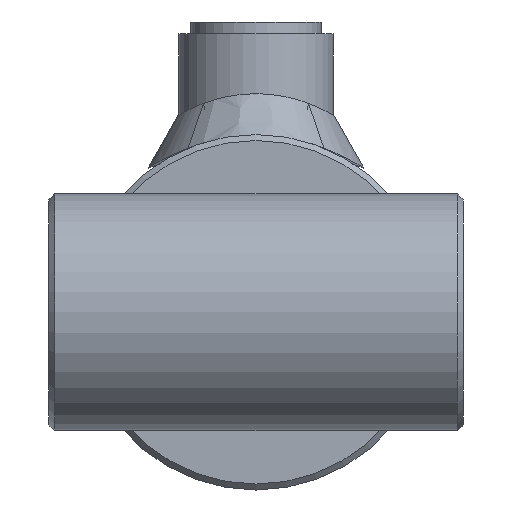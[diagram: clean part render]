
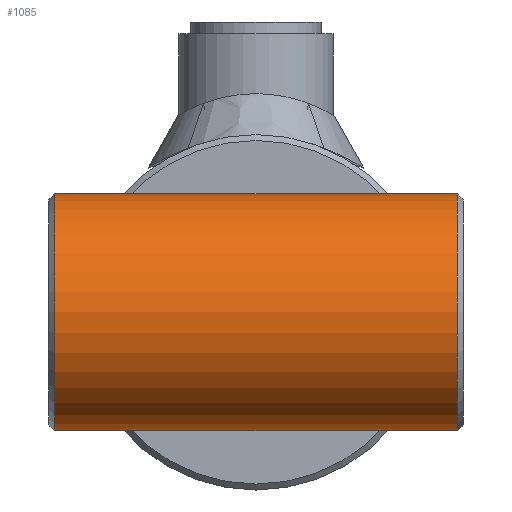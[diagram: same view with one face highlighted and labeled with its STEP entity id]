
A CAD part, left-side view. The second image highlights one B-rep face of the part: STEP entity #1085.
In plain terms, the highlighted cylindrical face has radius 20 mm (diameter 40 mm), a full revolution.
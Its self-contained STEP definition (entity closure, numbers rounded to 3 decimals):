
#1085 = ADVANCED_FACE( '', ( #2072, #2073 ), #2074, .T. );
#2072 = FACE_OUTER_BOUND( '', #7133, .T. );
#2073 = FACE_OUTER_BOUND( '', #7134, .T. );
#2074 = CYLINDRICAL_SURFACE( '', #7135, 20. );
#7133 = EDGE_LOOP( '', ( #11878 ) );
#7134 = EDGE_LOOP( '', ( #11879 ) );
#7135 = AXIS2_PLACEMENT_3D( '', #11880, #11881, #11882 );
#11878 = ORIENTED_EDGE( '', *, *, #13212, .T. );
#11879 = ORIENTED_EDGE( '', *, *, #12874, .T. );
#11880 = CARTESIAN_POINT( '', ( 0., -35., 0. ) );
#11881 = DIRECTION( '', ( 0., -1., 0. ) );
#11882 = DIRECTION( '', ( 0., 0., 1. ) );
#12874 = EDGE_CURVE( '', #13870, #13870, #13871, .T. );
#13212 = EDGE_CURVE( '', #14352, #14352, #14353, .F. );
#13870 = VERTEX_POINT( '', #15685 );
#13871 = CIRCLE( '', #15686, 20. );
#14352 = VERTEX_POINT( '', #17537 );
#14353 = CIRCLE( '', #17538, 20. );
#15685 = CARTESIAN_POINT( '', ( 0., -34., 20. ) );
#15686 = AXIS2_PLACEMENT_3D( '', #18500, #18501, #18502 );
#17537 = CARTESIAN_POINT( '', ( 0., 34., 20. ) );
#17538 = AXIS2_PLACEMENT_3D( '', #18755, #18756, #18757 );
#18500 = CARTESIAN_POINT( '', ( 0., -34., 0. ) );
#18501 = DIRECTION( '', ( 0., 1., 0. ) );
#18502 = DIRECTION( '', ( 0., 0., 1. ) );
#18755 = CARTESIAN_POINT( '', ( 0., 34., 0. ) );
#18756 = DIRECTION( '', ( 0., 1., 0. ) );
#18757 = DIRECTION( '', ( 0., 0., 1. ) );
